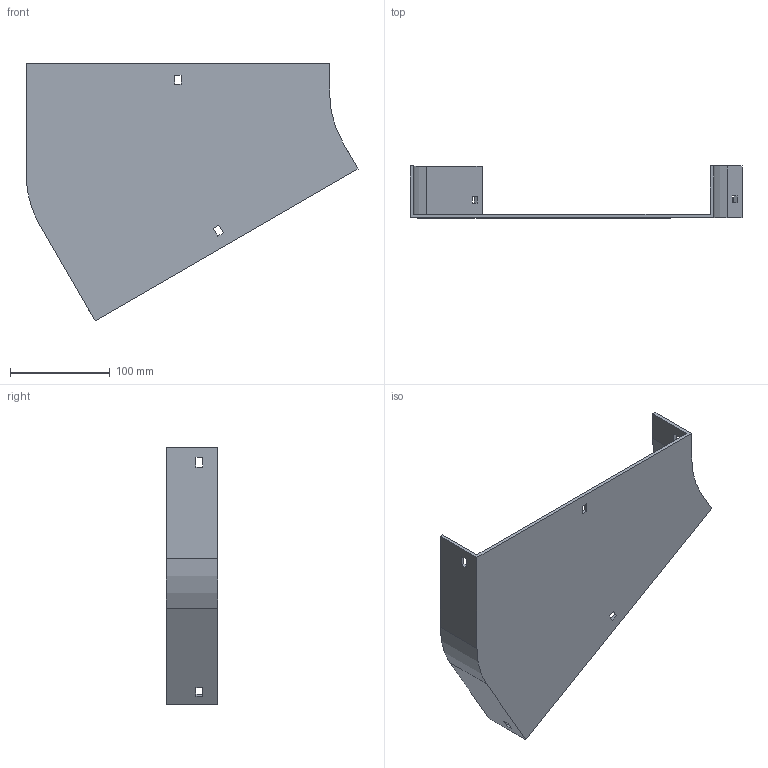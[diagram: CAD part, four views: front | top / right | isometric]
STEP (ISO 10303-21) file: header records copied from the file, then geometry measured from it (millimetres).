
FILE_DESCRIPTION (( 'STEP AP214' ), '1' );
FILE_NAME ('12F1B300.step', '2025-02-21T12:54:10', ( '' ), ( '' ), 'SwSTEP 2.0', 'SolidWorks 2023', '' );
FILE_SCHEMA (( 'AUTOMOTIVE_DESIGN' ));
Length unit declared in the file: millimetre
Products named in the file (1): 12F1B300
Bounding box: 332.4 x 52 x 257.98 mm (x, y, z)
Volume: 271940.5 mm3; surface area: 160251.3 mm2
Topology: 1 solids, 1 shells, 42 faces, 120 edges, 80 vertices
Faces by surface type: plane 38, cylinder 4
Entity records: 1399 total; most frequent: CARTESIAN_POINT 243, ORIENTED_EDGE 240, DIRECTION 214, EDGE_CURVE 120, LINE 112, VECTOR 112, VERTEX_POINT 80, EDGE_LOOP 54
